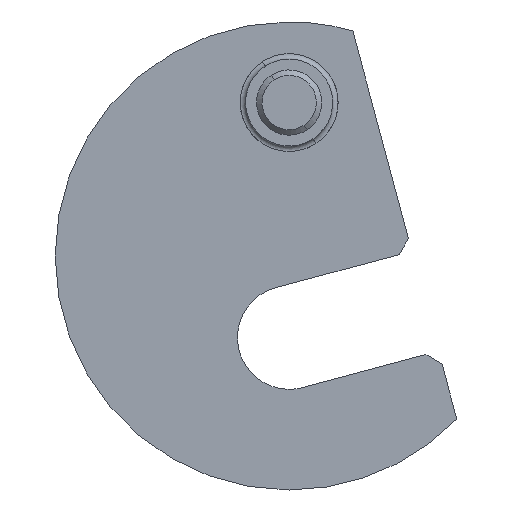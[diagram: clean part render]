
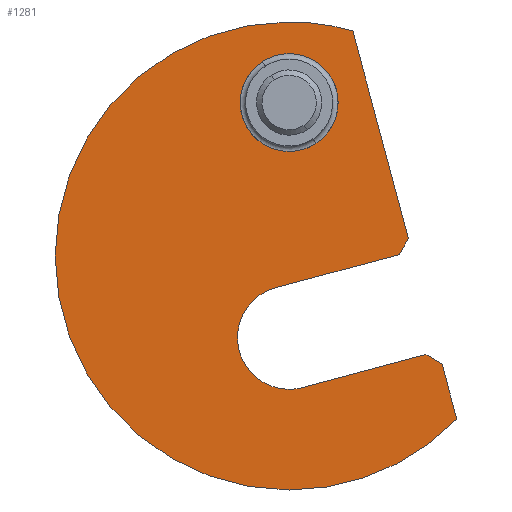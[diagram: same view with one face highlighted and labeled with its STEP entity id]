
A CAD part, front view. The second image highlights one B-rep face of the part: STEP entity #1281.
In plain terms, the highlighted planar face has unit normal (0, -1, 0).
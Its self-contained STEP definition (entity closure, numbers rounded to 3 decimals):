
#150 = EDGE_CURVE ( 'NONE', #152, #1421, #762, .T. ) ;
#152 = VERTEX_POINT ( 'NONE', #671 ) ;
#199 = VERTEX_POINT ( 'NONE', #877 ) ;
#202 = EDGE_LOOP ( 'NONE', ( #220, #259 ) ) ;
#220 = ORIENTED_EDGE ( 'NONE', *, *, #222, .T. ) ;
#222 = EDGE_CURVE ( 'NONE', #225, #223, #836, .T. ) ;
#223 = VERTEX_POINT ( 'NONE', #841 ) ;
#225 = VERTEX_POINT ( 'NONE', #840 ) ;
#226 = VERTEX_POINT ( 'NONE', #839 ) ;
#233 = ORIENTED_EDGE ( 'NONE', *, *, #248, .T. ) ;
#234 = EDGE_CURVE ( 'NONE', #238, #226, #875, .T. ) ;
#235 = EDGE_CURVE ( 'NONE', #226, #152, #871, .T. ) ;
#237 = ORIENTED_EDGE ( 'NONE', *, *, #234, .F. ) ;
#238 = VERTEX_POINT ( 'NONE', #863 ) ;
#244 = ORIENTED_EDGE ( 'NONE', *, *, #150, .F. ) ;
#245 = ORIENTED_EDGE ( 'NONE', *, *, #235, .F. ) ;
#248 = EDGE_CURVE ( 'NONE', #238, #199, #909, .T. ) ;
#249 = ORIENTED_EDGE ( 'NONE', *, *, #252, .F. ) ;
#250 = EDGE_CURVE ( 'NONE', #1209, #1173, #905, .T. ) ;
#251 = ORIENTED_EDGE ( 'NONE', *, *, #250, .F. ) ;
#252 = EDGE_CURVE ( 'NONE', #1172, #199, #900, .T. ) ;
#254 = ORIENTED_EDGE ( 'NONE', *, *, #1178, .F. ) ;
#259 = ORIENTED_EDGE ( 'NONE', *, *, #261, .T. ) ;
#261 = EDGE_CURVE ( 'NONE', #223, #225, #992, .T. ) ;
#671 = CARTESIAN_POINT ( 'NONE',  ( 0., 0., -21.5 ) ) ;
#672 = DIRECTION ( 'NONE',  ( 0., 0., 1. ) ) ;
#673 = DIRECTION ( 'NONE',  ( 0., 1., 0. ) ) ;
#732 = LINE ( 'NONE', #895, #891 ) ;
#760 = CARTESIAN_POINT ( 'NONE',  ( 0., 0., 0. ) ) ;
#761 = AXIS2_PLACEMENT_3D ( 'NONE', #760, #673, #672 ) ;
#762 = CIRCLE ( 'NONE', #761, 21.5 ) ;
#836 = CIRCLE ( 'NONE', #845, 4.5 ) ;
#839 = CARTESIAN_POINT ( 'NONE',  ( 15.406, 0., -14.996 ) ) ;
#840 = CARTESIAN_POINT ( 'NONE',  ( 0., 0., 9.6 ) ) ;
#841 = CARTESIAN_POINT ( 'NONE',  ( 0., 0., 18.6 ) ) ;
#842 = DIRECTION ( 'NONE',  ( 0., 0., 1. ) ) ;
#843 = DIRECTION ( 'NONE',  ( 0., 1., 0. ) ) ;
#844 = CARTESIAN_POINT ( 'NONE',  ( 0., 0., 14.1 ) ) ;
#845 = AXIS2_PLACEMENT_3D ( 'NONE', #844, #843, #842 ) ;
#863 = CARTESIAN_POINT ( 'NONE',  ( 14.04, 0., -9.898 ) ) ;
#867 = DIRECTION ( 'NONE',  ( 0., 0., 1. ) ) ;
#868 = DIRECTION ( 'NONE',  ( 0., 1., 0. ) ) ;
#869 = CARTESIAN_POINT ( 'NONE',  ( 0., 0., 0. ) ) ;
#870 = AXIS2_PLACEMENT_3D ( 'NONE', #869, #868, #867 ) ;
#871 = CIRCLE ( 'NONE', #870, 21.5 ) ;
#872 = DIRECTION ( 'NONE',  ( 0.259, 0., -0.966 ) ) ;
#873 = VECTOR ( 'NONE', #872, 1000. ) ;
#874 = CARTESIAN_POINT ( 'NONE',  ( 13.73, 0., -8.739 ) ) ;
#875 = LINE ( 'NONE', #874, #873 ) ;
#877 = CARTESIAN_POINT ( 'NONE',  ( 12.57, 0., -9.049 ) ) ;
#890 = DIRECTION ( 'NONE',  ( 0.259, 0., -0.966 ) ) ;
#891 = VECTOR ( 'NONE', #890, 1000. ) ;
#895 = CARTESIAN_POINT ( 'NONE',  ( 5.844, 0., 20.691 ) ) ;
#897 = DIRECTION ( 'NONE',  ( 0.966, 0., 0.259 ) ) ;
#898 = VECTOR ( 'NONE', #897, 1000. ) ;
#899 = CARTESIAN_POINT ( 'NONE',  ( 1.229, 0., -12.088 ) ) ;
#900 = LINE ( 'NONE', #899, #898 ) ;
#901 = DIRECTION ( 'NONE',  ( 0., 0., 1. ) ) ;
#902 = DIRECTION ( 'NONE',  ( 0., -1., 0. ) ) ;
#903 = CARTESIAN_POINT ( 'NONE',  ( 0., 0., -7.5 ) ) ;
#904 = AXIS2_PLACEMENT_3D ( 'NONE', #903, #902, #901 ) ;
#905 = CIRCLE ( 'NONE', #904, 4.75 ) ;
#906 = DIRECTION ( 'NONE',  ( -0.866, 0., 0.5 ) ) ;
#907 = VECTOR ( 'NONE', #906, 1000. ) ;
#908 = CARTESIAN_POINT ( 'NONE',  ( 14.04, 0., -9.898 ) ) ;
#909 = LINE ( 'NONE', #908, #907 ) ;
#934 = CARTESIAN_POINT ( 'NONE',  ( 0., 0., 14.1 ) ) ;
#982 = DIRECTION ( 'NONE',  ( 0., 0., 1. ) ) ;
#983 = DIRECTION ( 'NONE',  ( 0., 1., 0. ) ) ;
#992 = CIRCLE ( 'NONE', #994, 4.5 ) ;
#994 = AXIS2_PLACEMENT_3D ( 'NONE', #934, #983, #982 ) ;
#1016 = CARTESIAN_POINT ( 'NONE',  ( 0., 0., -12.25 ) ) ;
#1017 = DIRECTION ( 'NONE',  ( 0., 0., 1. ) ) ;
#1018 = DIRECTION ( 'NONE',  ( 0., -1., 0. ) ) ;
#1019 = CARTESIAN_POINT ( 'NONE',  ( 0., 0., -7.5 ) ) ;
#1020 = AXIS2_PLACEMENT_3D ( 'NONE', #1019, #1018, #1017 ) ;
#1022 = CARTESIAN_POINT ( 'NONE',  ( -1.229, 0., -2.912 ) ) ;
#1032 = CARTESIAN_POINT ( 'NONE',  ( 1.229, 0., -12.088 ) ) ;
#1034 = CIRCLE ( 'NONE', #1020, 4.75 ) ;
#1059 = CARTESIAN_POINT ( 'NONE',  ( 5.844, 0., 20.691 ) ) ;
#1060 = DIRECTION ( 'NONE',  ( 0., 0., 1. ) ) ;
#1061 = DIRECTION ( 'NONE',  ( 0., 1., 0. ) ) ;
#1062 = CARTESIAN_POINT ( 'NONE',  ( 0., 0., 0. ) ) ;
#1063 = AXIS2_PLACEMENT_3D ( 'NONE', #1062, #1061, #1060 ) ;
#1064 = CIRCLE ( 'NONE', #1063, 21.5 ) ;
#1084 = FACE_OUTER_BOUND ( 'NONE', #1287, .T. ) ;
#1086 = DIRECTION ( 'NONE',  ( 0.5, 0., 0.866 ) ) ;
#1088 = FACE_BOUND ( 'NONE', #202, .T. ) ;
#1089 = CARTESIAN_POINT ( 'NONE',  ( 10.112, 0., 0.127 ) ) ;
#1090 = DIRECTION ( 'NONE',  ( -0.966, 0., -0.259 ) ) ;
#1091 = VECTOR ( 'NONE', #1090, 1000. ) ;
#1092 = CARTESIAN_POINT ( 'NONE',  ( -1.229, 0., -2.912 ) ) ;
#1093 = LINE ( 'NONE', #1092, #1091 ) ;
#1094 = DIRECTION ( 'NONE',  ( 0., 0., 1. ) ) ;
#1095 = PLANE ( 'NONE',  #1127 ) ;
#1109 = CARTESIAN_POINT ( 'NONE',  ( 0., 0., 21.5 ) ) ;
#1125 = DIRECTION ( 'NONE',  ( 0., 1., 0. ) ) ;
#1126 = CARTESIAN_POINT ( 'NONE',  ( 0., 0., 0. ) ) ;
#1127 = AXIS2_PLACEMENT_3D ( 'NONE', #1126, #1125, #1094 ) ;
#1128 = LINE ( 'NONE', #1129, #1130 ) ;
#1129 = CARTESIAN_POINT ( 'NONE',  ( 10.112, 0., 0.127 ) ) ;
#1130 = VECTOR ( 'NONE', #1086, 1000. ) ;
#1132 = CARTESIAN_POINT ( 'NONE',  ( 10.96, 0., 1.597 ) ) ;
#1172 = VERTEX_POINT ( 'NONE', #1032 ) ;
#1173 = VERTEX_POINT ( 'NONE', #1016 ) ;
#1178 = EDGE_CURVE ( 'NONE', #1173, #1172, #1034, .T. ) ;
#1209 = VERTEX_POINT ( 'NONE', #1022 ) ;
#1210 = EDGE_CURVE ( 'NONE', #1416, #1276, #732, .T. ) ;
#1235 = ORIENTED_EDGE ( 'NONE', *, *, #1275, .T. ) ;
#1236 = ORIENTED_EDGE ( 'NONE', *, *, #1415, .F. ) ;
#1275 = EDGE_CURVE ( 'NONE', #1362, #1276, #1128, .T. ) ;
#1276 = VERTEX_POINT ( 'NONE', #1132 ) ;
#1280 = ORIENTED_EDGE ( 'NONE', *, *, #1210, .F. ) ;
#1281 = ADVANCED_FACE ( 'NONE', ( #1084, #1088 ), #1095, .F. ) ;
#1283 = ORIENTED_EDGE ( 'NONE', *, *, #1288, .F. ) ;
#1287 = EDGE_LOOP ( 'NONE', ( #1283, #1235, #1280, #1236, #244, #245, #237, #233, #249, #254, #251 ) ) ;
#1288 = EDGE_CURVE ( 'NONE', #1362, #1209, #1093, .T. ) ;
#1362 = VERTEX_POINT ( 'NONE', #1089 ) ;
#1415 = EDGE_CURVE ( 'NONE', #1421, #1416, #1064, .T. ) ;
#1416 = VERTEX_POINT ( 'NONE', #1059 ) ;
#1421 = VERTEX_POINT ( 'NONE', #1109 ) ;
